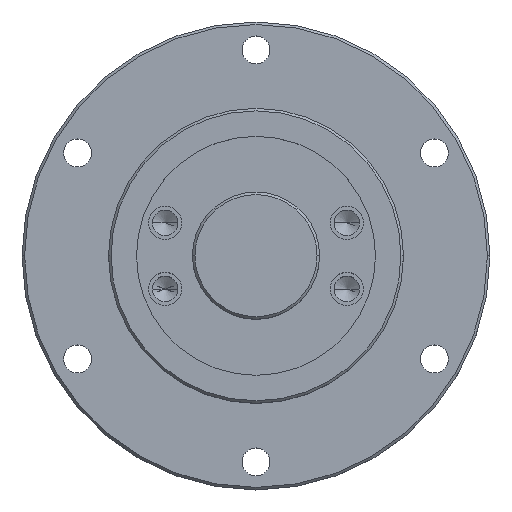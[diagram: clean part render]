
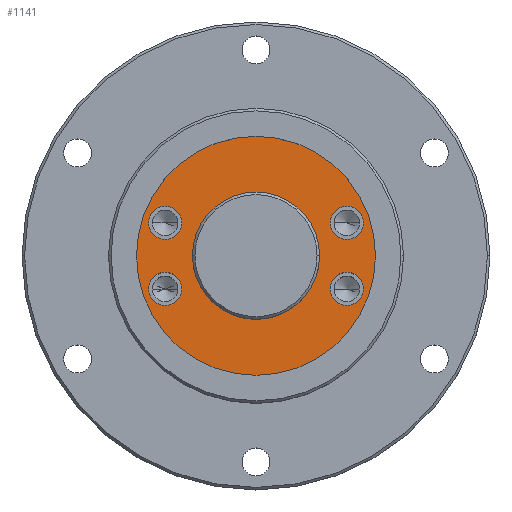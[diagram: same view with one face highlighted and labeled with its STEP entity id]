
A CAD part, top view. The second image highlights one B-rep face of the part: STEP entity #1141.
In plain terms, the highlighted planar face has unit normal (0, 0, 1).
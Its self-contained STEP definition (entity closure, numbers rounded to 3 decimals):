
#27 = CARTESIAN_POINT ( 'NONE',  ( 21.104, 6.498, 0. ) ) ;
#142 = FACE_BOUND ( 'NONE', #754, .T. ) ;
#159 = AXIS2_PLACEMENT_3D ( 'NONE', #1730, #4651, #2146 ) ;
#214 = CIRCLE ( 'NONE', #824, 12.5 ) ;
#219 = CIRCLE ( 'NONE', #2141, 3.25 ) ;
#260 = AXIS2_PLACEMENT_3D ( 'NONE', #4232, #1718, #4629 ) ;
#287 = VERTEX_POINT ( 'NONE', #4126 ) ;
#310 = DIRECTION ( 'NONE',  ( 1., 0., 0. ) ) ;
#321 = AXIS2_PLACEMENT_3D ( 'NONE', #5031, #2528, #5444 ) ;
#398 = AXIS2_PLACEMENT_3D ( 'NONE', #5419, #2956, #310 ) ;
#427 = FACE_BOUND ( 'NONE', #508, .T. ) ;
#508 = EDGE_LOOP ( 'NONE', ( #1388, #1806 ) ) ;
#522 = VERTEX_POINT ( 'NONE', #27 ) ;
#674 = VERTEX_POINT ( 'NONE', #1100 ) ;
#689 = EDGE_CURVE ( 'NONE', #1998, #1232, #4087, .T. ) ;
#746 = AXIS2_PLACEMENT_3D ( 'NONE', #1792, #4713, #2202 ) ;
#754 = EDGE_LOOP ( 'NONE', ( #1484, #3324 ) ) ;
#759 = AXIS2_PLACEMENT_3D ( 'NONE', #5135, #2645, #5536 ) ;
#824 = AXIS2_PLACEMENT_3D ( 'NONE', #3510, #909, #3906 ) ;
#837 = EDGE_CURVE ( 'NONE', #674, #4778, #219, .T. ) ;
#875 = ORIENTED_EDGE ( 'NONE', *, *, #837, .F. ) ;
#881 = VERTEX_POINT ( 'NONE', #3760 ) ;
#882 = ORIENTED_EDGE ( 'NONE', *, *, #2945, .F. ) ;
#909 = DIRECTION ( 'NONE',  ( 0., 0., 1. ) ) ;
#942 = VERTEX_POINT ( 'NONE', #3400 ) ;
#964 = VERTEX_POINT ( 'NONE', #2548 ) ;
#965 = DIRECTION ( 'NONE',  ( 0., 0., 1. ) ) ;
#1004 = DIRECTION ( 'NONE',  ( 1., 0., 0. ) ) ;
#1100 = CARTESIAN_POINT ( 'NONE',  ( -21.104, -6.498, 0. ) ) ;
#1104 = VERTEX_POINT ( 'NONE', #5308 ) ;
#1141 = ADVANCED_FACE ( 'NONE', ( #427, #142, #3499, #2373, #1205, #5541 ), #1563, .F. ) ;
#1180 = EDGE_LOOP ( 'NONE', ( #3716, #882 ) ) ;
#1196 = CARTESIAN_POINT ( 'NONE',  ( -17.854, -6.498, 0. ) ) ;
#1205 = FACE_BOUND ( 'NONE', #1180, .T. ) ;
#1232 = VERTEX_POINT ( 'NONE', #2293 ) ;
#1287 = ORIENTED_EDGE ( 'NONE', *, *, #1578, .F. ) ;
#1371 = CARTESIAN_POINT ( 'NONE',  ( 0., 0., 0. ) ) ;
#1384 = AXIS2_PLACEMENT_3D ( 'NONE', #4508, #4936, #2424 ) ;
#1388 = ORIENTED_EDGE ( 'NONE', *, *, #1422, .F. ) ;
#1411 = EDGE_CURVE ( 'NONE', #1232, #1998, #4623, .T. ) ;
#1422 = EDGE_CURVE ( 'NONE', #287, #881, #214, .T. ) ;
#1484 = ORIENTED_EDGE ( 'NONE', *, *, #1601, .F. ) ;
#1491 = CIRCLE ( 'NONE', #321, 3.25 ) ;
#1557 = EDGE_LOOP ( 'NONE', ( #4430, #2591 ) ) ;
#1563 = PLANE ( 'NONE',  #1384 ) ;
#1578 = EDGE_CURVE ( 'NONE', #964, #1104, #1624, .T. ) ;
#1601 = EDGE_CURVE ( 'NONE', #5080, #1844, #1491, .T. ) ;
#1619 = DIRECTION ( 'NONE',  ( 0., 0., 1. ) ) ;
#1624 = CIRCLE ( 'NONE', #398, 3.25 ) ;
#1648 = EDGE_CURVE ( 'NONE', #4778, #674, #2484, .T. ) ;
#1653 = DIRECTION ( 'NONE',  ( 1., 0., 0. ) ) ;
#1673 = EDGE_CURVE ( 'NONE', #1104, #964, #3493, .T. ) ;
#1718 = DIRECTION ( 'NONE',  ( 0., 0., 1. ) ) ;
#1726 = DIRECTION ( 'NONE',  ( 0., 0., 1. ) ) ;
#1730 = CARTESIAN_POINT ( 'NONE',  ( 17.854, -6.498, 0. ) ) ;
#1743 = EDGE_CURVE ( 'NONE', #522, #942, #4315, .T. ) ;
#1792 = CARTESIAN_POINT ( 'NONE',  ( 17.854, 6.498, 0. ) ) ;
#1806 = ORIENTED_EDGE ( 'NONE', *, *, #5514, .F. ) ;
#1826 = EDGE_LOOP ( 'NONE', ( #3443, #875 ) ) ;
#1830 = DIRECTION ( 'NONE',  ( 1., 0., 0. ) ) ;
#1844 = VERTEX_POINT ( 'NONE', #5206 ) ;
#1998 = VERTEX_POINT ( 'NONE', #3425 ) ;
#2003 = CARTESIAN_POINT ( 'NONE',  ( -14.604, -6.498, 0. ) ) ;
#2107 = AXIS2_PLACEMENT_3D ( 'NONE', #4237, #1726, #4641 ) ;
#2141 = AXIS2_PLACEMENT_3D ( 'NONE', #1196, #4172, #1653 ) ;
#2146 = DIRECTION ( 'NONE',  ( 1., 0., 0. ) ) ;
#2173 = EDGE_LOOP ( 'NONE', ( #3329, #1287 ) ) ;
#2202 = DIRECTION ( 'NONE',  ( 1., 0., 0. ) ) ;
#2293 = CARTESIAN_POINT ( 'NONE',  ( -23.5, 0., 0. ) ) ;
#2373 = FACE_BOUND ( 'NONE', #2173, .T. ) ;
#2424 = DIRECTION ( 'NONE',  ( -1., 0., 0. ) ) ;
#2475 = AXIS2_PLACEMENT_3D ( 'NONE', #1371, #4342, #1830 ) ;
#2484 = CIRCLE ( 'NONE', #260, 3.25 ) ;
#2528 = DIRECTION ( 'NONE',  ( 0., 0., 1. ) ) ;
#2548 = CARTESIAN_POINT ( 'NONE',  ( 14.604, -6.498, 0. ) ) ;
#2580 = EDGE_CURVE ( 'NONE', #1844, #5080, #5495, .T. ) ;
#2591 = ORIENTED_EDGE ( 'NONE', *, *, #1411, .T. ) ;
#2645 = DIRECTION ( 'NONE',  ( 0., 0., 1. ) ) ;
#2945 = EDGE_CURVE ( 'NONE', #942, #522, #4212, .T. ) ;
#2956 = DIRECTION ( 'NONE',  ( 0., 0., 1. ) ) ;
#3066 = AXIS2_PLACEMENT_3D ( 'NONE', #3553, #965, #3949 ) ;
#3324 = ORIENTED_EDGE ( 'NONE', *, *, #2580, .F. ) ;
#3329 = ORIENTED_EDGE ( 'NONE', *, *, #1673, .F. ) ;
#3400 = CARTESIAN_POINT ( 'NONE',  ( 14.604, 6.498, 0. ) ) ;
#3425 = CARTESIAN_POINT ( 'NONE',  ( 23.5, 0., 0. ) ) ;
#3443 = ORIENTED_EDGE ( 'NONE', *, *, #1648, .F. ) ;
#3493 = CIRCLE ( 'NONE', #159, 3.25 ) ;
#3499 = FACE_BOUND ( 'NONE', #1826, .T. ) ;
#3510 = CARTESIAN_POINT ( 'NONE',  ( 0., 0., 0. ) ) ;
#3553 = CARTESIAN_POINT ( 'NONE',  ( 0., 0., 0. ) ) ;
#3633 = CIRCLE ( 'NONE', #3066, 12.5 ) ;
#3716 = ORIENTED_EDGE ( 'NONE', *, *, #1743, .F. ) ;
#3760 = CARTESIAN_POINT ( 'NONE',  ( -12.5, 0., 0. ) ) ;
#3906 = DIRECTION ( 'NONE',  ( 1., 0., 0. ) ) ;
#3942 = AXIS2_PLACEMENT_3D ( 'NONE', #4154, #1619, #1004 ) ;
#3949 = DIRECTION ( 'NONE',  ( 1., 0., 0. ) ) ;
#4087 = CIRCLE ( 'NONE', #2475, 23.5 ) ;
#4126 = CARTESIAN_POINT ( 'NONE',  ( 12.5, 0., 0. ) ) ;
#4154 = CARTESIAN_POINT ( 'NONE',  ( -17.854, 6.498, 0. ) ) ;
#4172 = DIRECTION ( 'NONE',  ( 0., 0., 1. ) ) ;
#4212 = CIRCLE ( 'NONE', #2107, 3.25 ) ;
#4232 = CARTESIAN_POINT ( 'NONE',  ( -17.854, -6.498, 0. ) ) ;
#4237 = CARTESIAN_POINT ( 'NONE',  ( 17.854, 6.498, 0. ) ) ;
#4315 = CIRCLE ( 'NONE', #746, 3.25 ) ;
#4342 = DIRECTION ( 'NONE',  ( 0., 0., 1. ) ) ;
#4430 = ORIENTED_EDGE ( 'NONE', *, *, #689, .T. ) ;
#4435 = CARTESIAN_POINT ( 'NONE',  ( -14.604, 6.498, 0. ) ) ;
#4508 = CARTESIAN_POINT ( 'NONE',  ( 0., 23.5, 0. ) ) ;
#4623 = CIRCLE ( 'NONE', #759, 23.5 ) ;
#4629 = DIRECTION ( 'NONE',  ( 1., 0., 0. ) ) ;
#4641 = DIRECTION ( 'NONE',  ( 1., 0., 0. ) ) ;
#4651 = DIRECTION ( 'NONE',  ( 0., 0., 1. ) ) ;
#4713 = DIRECTION ( 'NONE',  ( 0., 0., 1. ) ) ;
#4778 = VERTEX_POINT ( 'NONE', #2003 ) ;
#4936 = DIRECTION ( 'NONE',  ( 0., 0., -1. ) ) ;
#5031 = CARTESIAN_POINT ( 'NONE',  ( -17.854, 6.498, 0. ) ) ;
#5080 = VERTEX_POINT ( 'NONE', #4435 ) ;
#5135 = CARTESIAN_POINT ( 'NONE',  ( 0., 0., 0. ) ) ;
#5206 = CARTESIAN_POINT ( 'NONE',  ( -21.104, 6.498, 0. ) ) ;
#5308 = CARTESIAN_POINT ( 'NONE',  ( 21.104, -6.498, 0. ) ) ;
#5419 = CARTESIAN_POINT ( 'NONE',  ( 17.854, -6.498, 0. ) ) ;
#5444 = DIRECTION ( 'NONE',  ( 1., 0., 0. ) ) ;
#5495 = CIRCLE ( 'NONE', #3942, 3.25 ) ;
#5514 = EDGE_CURVE ( 'NONE', #881, #287, #3633, .T. ) ;
#5536 = DIRECTION ( 'NONE',  ( 1., 0., 0. ) ) ;
#5541 = FACE_OUTER_BOUND ( 'NONE', #1557, .T. ) ;
